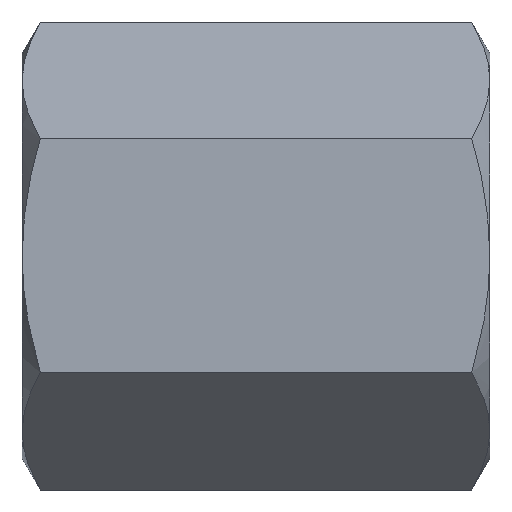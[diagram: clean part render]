
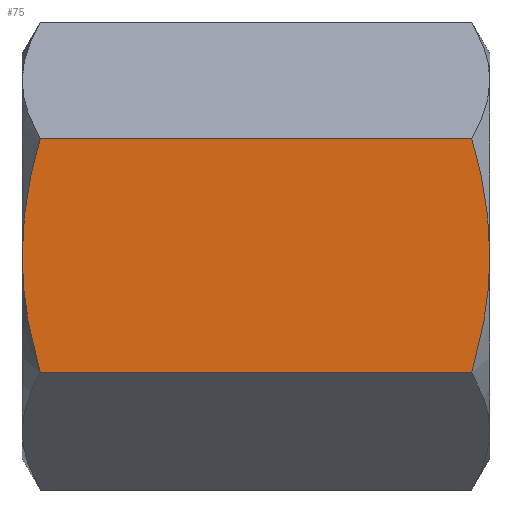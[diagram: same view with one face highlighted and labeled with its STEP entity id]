
A CAD part, top view. The second image highlights one B-rep face of the part: STEP entity #75.
In plain terms, the highlighted planar face has unit normal (0, 0, 1).
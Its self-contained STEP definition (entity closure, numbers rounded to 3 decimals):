
#75 = ADVANCED_FACE( '', ( #99 ), #100, .F. );
#99 = FACE_OUTER_BOUND( '', #150, .T. );
#100 = PLANE( '', #151 );
#150 = EDGE_LOOP( '', ( #201, #202, #203, #204, #205, #206 ) );
#151 = AXIS2_PLACEMENT_3D( '', #207, #208, #209 );
#201 = ORIENTED_EDGE( '', *, *, #362, .F. );
#202 = ORIENTED_EDGE( '', *, *, #363, .F. );
#203 = ORIENTED_EDGE( '', *, *, #364, .F. );
#204 = ORIENTED_EDGE( '', *, *, #365, .T. );
#205 = ORIENTED_EDGE( '', *, *, #366, .F. );
#206 = ORIENTED_EDGE( '', *, *, #367, .F. );
#207 = CARTESIAN_POINT( '', ( 15., 3.753, 6.5 ) );
#208 = DIRECTION( '', ( 0., 0., -1. ) );
#209 = DIRECTION( '', ( -1., 0., 0. ) );
#362 = EDGE_CURVE( '', #408, #409, #410, .T. );
#363 = EDGE_CURVE( '', #411, #408, #412, .F. );
#364 = EDGE_CURVE( '', #413, #411, #414, .F. );
#365 = EDGE_CURVE( '', #413, #415, #416, .T. );
#366 = EDGE_CURVE( '', #417, #415, #418, .T. );
#367 = EDGE_CURVE( '', #409, #417, #419, .T. );
#408 = VERTEX_POINT( '', #482 );
#409 = VERTEX_POINT( '', #483 );
#410 = LINE( '', #484, #485 );
#411 = VERTEX_POINT( '', #486 );
#412 = B_SPLINE_CURVE_WITH_KNOTS( '', 3, ( #487, #488, #489, #490, #491, #492 ), .UNSPECIFIED., .F., .F., ( 4, 2, 4 ), ( 0.007, 0.009, 0.011 ), .UNSPECIFIED. );
#413 = VERTEX_POINT( '', #493 );
#414 = B_SPLINE_CURVE_WITH_KNOTS( '', 3, ( #494, #495, #496, #497, #498, #499 ), .UNSPECIFIED., .F., .F., ( 4, 2, 4 ), ( 0.011, 0.013, 0.014 ), .UNSPECIFIED. );
#415 = VERTEX_POINT( '', #500 );
#416 = LINE( '', #501, #502 );
#417 = VERTEX_POINT( '', #503 );
#418 = B_SPLINE_CURVE_WITH_KNOTS( '', 3, ( #504, #505, #506, #507, #508, #509 ), .UNSPECIFIED., .F., .F., ( 4, 2, 4 ), ( 0.011, 0.013, 0.014 ), .UNSPECIFIED. );
#419 = B_SPLINE_CURVE_WITH_KNOTS( '', 3, ( #510, #511, #512, #513, #514, #515 ), .UNSPECIFIED., .F., .F., ( 4, 2, 4 ), ( 0.007, 0.009, 0.011 ), .UNSPECIFIED. );
#482 = CARTESIAN_POINT( '', ( 14.419, -3.753, 6.5 ) );
#483 = CARTESIAN_POINT( '', ( 0.581, -3.753, 6.5 ) );
#484 = CARTESIAN_POINT( '', ( 15., -3.753, 6.5 ) );
#485 = VECTOR( '', #698, 1000. );
#486 = CARTESIAN_POINT( '', ( 15., 0., 6.5 ) );
#487 = CARTESIAN_POINT( '', ( 14.419, -3.753, 6.5 ) );
#488 = CARTESIAN_POINT( '', ( 14.596, -3.142, 6.5 ) );
#489 = CARTESIAN_POINT( '', ( 14.743, -2.517, 6.5 ) );
#490 = CARTESIAN_POINT( '', ( 14.945, -1.265, 6.5 ) );
#491 = CARTESIAN_POINT( '', ( 15., -0.635, 6.5 ) );
#492 = CARTESIAN_POINT( '', ( 15., 0., 6.5 ) );
#493 = CARTESIAN_POINT( '', ( 14.419, 3.753, 6.5 ) );
#494 = CARTESIAN_POINT( '', ( 15., 0., 6.5 ) );
#495 = CARTESIAN_POINT( '', ( 15., 0.635, 6.5 ) );
#496 = CARTESIAN_POINT( '', ( 14.944, 1.278, 6.5 ) );
#497 = CARTESIAN_POINT( '', ( 14.74, 2.531, 6.5 ) );
#498 = CARTESIAN_POINT( '', ( 14.595, 3.146, 6.5 ) );
#499 = CARTESIAN_POINT( '', ( 14.419, 3.753, 6.5 ) );
#500 = CARTESIAN_POINT( '', ( 0.581, 3.753, 6.5 ) );
#501 = CARTESIAN_POINT( '', ( 15., 3.753, 6.5 ) );
#502 = VECTOR( '', #699, 1000. );
#503 = CARTESIAN_POINT( '', ( 0., 0., 6.5 ) );
#504 = CARTESIAN_POINT( '', ( 0., 0., 6.5 ) );
#505 = CARTESIAN_POINT( '', ( 0., 0.635, 6.5 ) );
#506 = CARTESIAN_POINT( '', ( 0.056, 1.278, 6.5 ) );
#507 = CARTESIAN_POINT( '', ( 0.26, 2.531, 6.5 ) );
#508 = CARTESIAN_POINT( '', ( 0.405, 3.146, 6.5 ) );
#509 = CARTESIAN_POINT( '', ( 0.581, 3.753, 6.5 ) );
#510 = CARTESIAN_POINT( '', ( 0.581, -3.753, 6.5 ) );
#511 = CARTESIAN_POINT( '', ( 0.404, -3.142, 6.5 ) );
#512 = CARTESIAN_POINT( '', ( 0.257, -2.517, 6.5 ) );
#513 = CARTESIAN_POINT( '', ( 0.055, -1.265, 6.5 ) );
#514 = CARTESIAN_POINT( '', ( 0., -0.635, 6.5 ) );
#515 = CARTESIAN_POINT( '', ( 0., 0., 6.5 ) );
#698 = DIRECTION( '', ( -1., 0., 0. ) );
#699 = DIRECTION( '', ( -1., 0., 0. ) );
